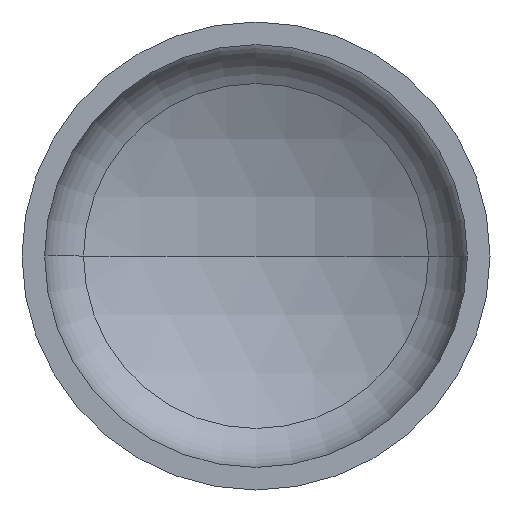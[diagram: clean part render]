
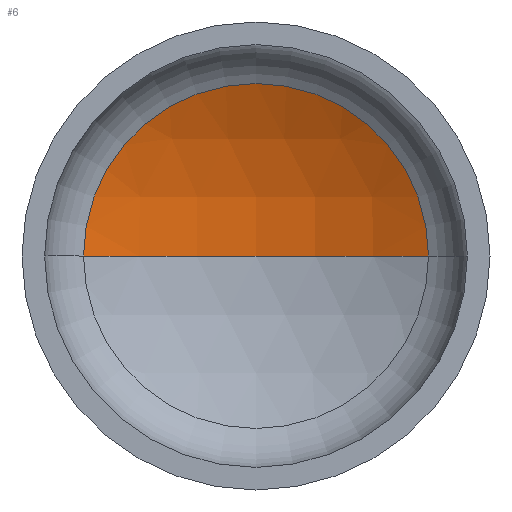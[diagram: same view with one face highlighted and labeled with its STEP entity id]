
A CAD part, front view. The second image highlights one B-rep face of the part: STEP entity #6.
In plain terms, the highlighted spherical face has radius 960 mm.
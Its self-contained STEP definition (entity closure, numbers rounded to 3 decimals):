
#3 = AXIS2_PLACEMENT_3D ( 'NONE', #87, #91, #258 ) ;
#5 = AXIS2_PLACEMENT_3D ( 'NONE', #167, #72, #82 ) ;
#6 = ADVANCED_FACE ( 'NONE', ( #203 ), #224, .F. ) ;
#12 = AXIS2_PLACEMENT_3D ( 'NONE', #120, #62, #279 ) ;
#37 = EDGE_LOOP ( 'NONE', ( #364, #111, #225 ) ) ;
#43 = AXIS2_PLACEMENT_3D ( 'NONE', #246, #399, #272 ) ;
#62 = DIRECTION ( 'NONE',  ( 0., 0., 1. ) ) ;
#71 = VERTEX_POINT ( 'NONE', #297 ) ;
#72 = DIRECTION ( 'NONE',  ( 0., -1., 0. ) ) ;
#82 = DIRECTION ( 'NONE',  ( 1., 0., 0. ) ) ;
#87 = CARTESIAN_POINT ( 'NONE',  ( 0., -567.878, 0. ) ) ;
#91 = DIRECTION ( 'NONE',  ( 0., 0., -1. ) ) ;
#93 = CARTESIAN_POINT ( 'NONE',  ( 0., 392.122, 0. ) ) ;
#111 = ORIENTED_EDGE ( 'NONE', *, *, #352, .T. ) ;
#116 = CIRCLE ( 'NONE', #3, 960. ) ;
#120 = CARTESIAN_POINT ( 'NONE',  ( 0., -567.878, 0. ) ) ;
#127 = CIRCLE ( 'NONE', #12, 960. ) ;
#167 = CARTESIAN_POINT ( 'NONE',  ( 0., 284.203, 0. ) ) ;
#203 = FACE_OUTER_BOUND ( 'NONE', #37, .T. ) ;
#222 = VERTEX_POINT ( 'NONE', #93 ) ;
#224 = SPHERICAL_SURFACE ( 'NONE', #43, 960. ) ;
#225 = ORIENTED_EDGE ( 'NONE', *, *, #348, .T. ) ;
#231 = CARTESIAN_POINT ( 'NONE',  ( 442.219, 284.203, 0. ) ) ;
#246 = CARTESIAN_POINT ( 'NONE',  ( 0., -567.878, 0. ) ) ;
#258 = DIRECTION ( 'NONE',  ( -1., 0., 0. ) ) ;
#272 = DIRECTION ( 'NONE',  ( -1., 0., 0. ) ) ;
#278 = VERTEX_POINT ( 'NONE', #231 ) ;
#279 = DIRECTION ( 'NONE',  ( 1., 0., 0. ) ) ;
#297 = CARTESIAN_POINT ( 'NONE',  ( -442.219, 284.203, 0. ) ) ;
#330 = EDGE_CURVE ( 'NONE', #222, #71, #127, .T. ) ;
#338 = CIRCLE ( 'NONE', #5, 442.219 ) ;
#348 = EDGE_CURVE ( 'NONE', #278, #71, #338, .T. ) ;
#352 = EDGE_CURVE ( 'NONE', #222, #278, #116, .T. ) ;
#364 = ORIENTED_EDGE ( 'NONE', *, *, #330, .F. ) ;
#399 = DIRECTION ( 'NONE',  ( 0., 0., -1. ) ) ;
